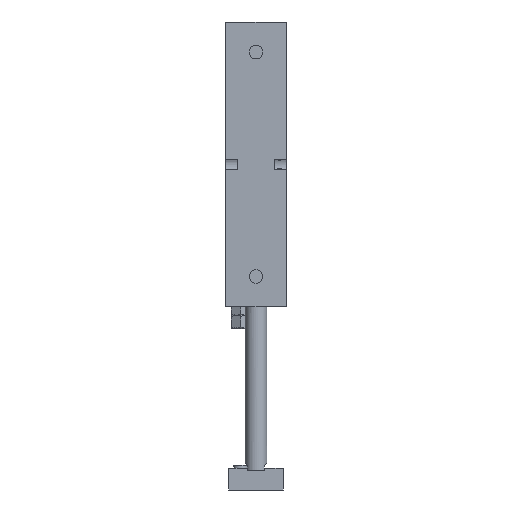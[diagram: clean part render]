
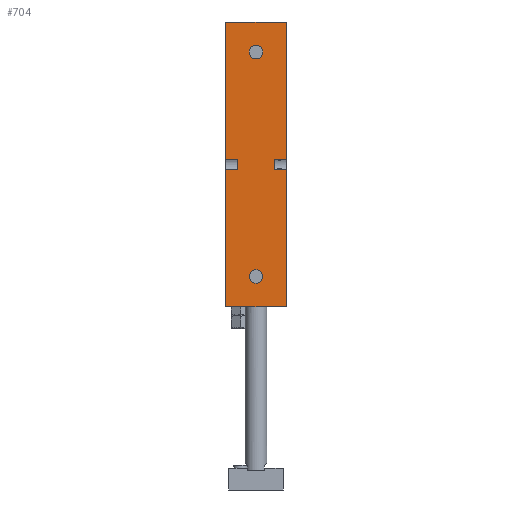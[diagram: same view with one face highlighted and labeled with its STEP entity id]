
A CAD part, front view. The second image highlights one B-rep face of the part: STEP entity #704.
In plain terms, the highlighted planar face has unit normal (0, -1, 0).
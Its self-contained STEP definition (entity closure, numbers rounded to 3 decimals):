
#195=CARTESIAN_POINT('',(2.5,-27.0,160.));
#196=VERTEX_POINT('',#195);
#197=CARTESIAN_POINT('',(0.0,-27.0,160.));
#198=DIRECTION('',(0.0,1.0,0.0));
#199=DIRECTION('',(-1.0,0.0,0.0));
#200=AXIS2_PLACEMENT_3D('',#197,#198,#199);
#201=CIRCLE('',#200,2.5);
#202=EDGE_CURVE('',#196,#196,#201,.T.);
#232=CARTESIAN_POINT('',(2.5,-27.0,78.0));
#233=VERTEX_POINT('',#232);
#234=CARTESIAN_POINT('',(0.0,-27.0,78.0));
#235=DIRECTION('',(0.0,1.0,0.0));
#236=DIRECTION('',(-1.0,0.0,0.0));
#237=AXIS2_PLACEMENT_3D('',#234,#235,#236);
#238=CIRCLE('',#237,2.5);
#239=EDGE_CURVE('',#233,#233,#238,.T.);
#485=CARTESIAN_POINT('',(-6.6,-27.0,120.936));
#486=VERTEX_POINT('',#485);
#487=CARTESIAN_POINT('',(-6.6,-27.0,117.064));
#488=VERTEX_POINT('',#487);
#489=CARTESIAN_POINT('',(-6.6,-27.0,120.936));
#490=DIRECTION('',(0.0,0.0,-1.0));
#491=VECTOR('',#490,3.873);
#492=LINE('',#489,#491);
#493=EDGE_CURVE('',#486,#488,#492,.T.);
#542=CARTESIAN_POINT('',(-11.,-27.0,120.936));
#543=VERTEX_POINT('',#542);
#544=CARTESIAN_POINT('',(-11.,-27.0,120.936));
#545=DIRECTION('',(1.0,0.0,0.0));
#546=VECTOR('',#545,4.4);
#547=LINE('',#544,#546);
#548=EDGE_CURVE('',#543,#486,#547,.T.);
#550=CARTESIAN_POINT('',(-11.,-27.0,117.064));
#551=VERTEX_POINT('',#550);
#559=CARTESIAN_POINT('',(-6.6,-27.0,117.064));
#560=DIRECTION('',(-1.0,0.0,0.0));
#561=VECTOR('',#560,4.4);
#562=LINE('',#559,#561);
#563=EDGE_CURVE('',#488,#551,#562,.T.);
#618=CARTESIAN_POINT('',(11.,-27.0,67.0));
#619=DIRECTION('',(0.0,-1.0,0.0));
#620=DIRECTION('',(0.0,0.0,-1.0));
#621=AXIS2_PLACEMENT_3D('',#618,#619,#620);
#622=PLANE('',#621);
#623=ORIENTED_EDGE('',*,*,#548,.T.);
#624=ORIENTED_EDGE('',*,*,#493,.T.);
#625=ORIENTED_EDGE('',*,*,#563,.T.);
#626=CARTESIAN_POINT('',(-11.,-27.0,67.0));
#627=VERTEX_POINT('',#626);
#628=CARTESIAN_POINT('',(-11.,-27.0,67.0));
#629=DIRECTION('',(0.0,0.0,1.0));
#630=VECTOR('',#629,50.064);
#631=LINE('',#628,#630);
#632=EDGE_CURVE('',#627,#551,#631,.T.);
#633=ORIENTED_EDGE('',*,*,#632,.F.);
#634=CARTESIAN_POINT('',(11.,-27.0,67.0));
#635=VERTEX_POINT('',#634);
#636=CARTESIAN_POINT('',(11.,-27.0,67.0));
#637=DIRECTION('',(-1.0,0.0,0.0));
#638=VECTOR('',#637,22.);
#639=LINE('',#636,#638);
#640=EDGE_CURVE('',#635,#627,#639,.T.);
#641=ORIENTED_EDGE('',*,*,#640,.F.);
#642=CARTESIAN_POINT('',(11.,-27.0,117.064));
#643=VERTEX_POINT('',#642);
#644=CARTESIAN_POINT('',(11.,-27.0,67.0));
#645=DIRECTION('',(0.0,0.0,1.0));
#646=VECTOR('',#645,50.064);
#647=LINE('',#644,#646);
#648=EDGE_CURVE('',#635,#643,#647,.T.);
#649=ORIENTED_EDGE('',*,*,#648,.T.);
#650=CARTESIAN_POINT('',(6.6,-27.0,117.064));
#651=VERTEX_POINT('',#650);
#652=CARTESIAN_POINT('',(11.,-27.0,117.064));
#653=DIRECTION('',(-1.0,0.0,0.0));
#654=VECTOR('',#653,4.4);
#655=LINE('',#652,#654);
#656=EDGE_CURVE('',#643,#651,#655,.T.);
#657=ORIENTED_EDGE('',*,*,#656,.T.);
#658=CARTESIAN_POINT('',(6.6,-27.0,120.936));
#659=VERTEX_POINT('',#658);
#660=CARTESIAN_POINT('',(6.6,-27.0,117.064));
#661=DIRECTION('',(0.0,0.0,1.0));
#662=VECTOR('',#661,3.873);
#663=LINE('',#660,#662);
#664=EDGE_CURVE('',#651,#659,#663,.T.);
#665=ORIENTED_EDGE('',*,*,#664,.T.);
#666=CARTESIAN_POINT('',(11.,-27.0,120.936));
#667=VERTEX_POINT('',#666);
#668=CARTESIAN_POINT('',(6.6,-27.0,120.936));
#669=DIRECTION('',(1.0,0.0,0.0));
#670=VECTOR('',#669,4.4);
#671=LINE('',#668,#670);
#672=EDGE_CURVE('',#659,#667,#671,.T.);
#673=ORIENTED_EDGE('',*,*,#672,.T.);
#674=CARTESIAN_POINT('',(11.,-27.0,171.0));
#675=VERTEX_POINT('',#674);
#676=CARTESIAN_POINT('',(11.,-27.0,120.936));
#677=DIRECTION('',(0.0,0.0,1.0));
#678=VECTOR('',#677,50.064);
#679=LINE('',#676,#678);
#680=EDGE_CURVE('',#667,#675,#679,.T.);
#681=ORIENTED_EDGE('',*,*,#680,.T.);
#682=CARTESIAN_POINT('',(-11.,-27.0,171.0));
#683=VERTEX_POINT('',#682);
#684=CARTESIAN_POINT('',(11.,-27.0,171.0));
#685=DIRECTION('',(-1.0,0.0,0.0));
#686=VECTOR('',#685,22.);
#687=LINE('',#684,#686);
#688=EDGE_CURVE('',#675,#683,#687,.T.);
#689=ORIENTED_EDGE('',*,*,#688,.T.);
#690=CARTESIAN_POINT('',(-11.,-27.0,120.936));
#691=DIRECTION('',(0.0,0.0,1.0));
#692=VECTOR('',#691,50.064);
#693=LINE('',#690,#692);
#694=EDGE_CURVE('',#543,#683,#693,.T.);
#695=ORIENTED_EDGE('',*,*,#694,.F.);
#696=EDGE_LOOP('',(#623,#624,#625,#633,#641,#649,#657,#665,#673,#681,#689,#695));
#697=FACE_OUTER_BOUND('',#696,.T.);
#698=ORIENTED_EDGE('',*,*,#202,.T.);
#699=EDGE_LOOP('',(#698));
#700=FACE_BOUND('',#699,.T.);
#701=ORIENTED_EDGE('',*,*,#239,.T.);
#702=EDGE_LOOP('',(#701));
#703=FACE_BOUND('',#702,.T.);
#704=ADVANCED_FACE('',(#697,#700,#703),#622,.T.);
